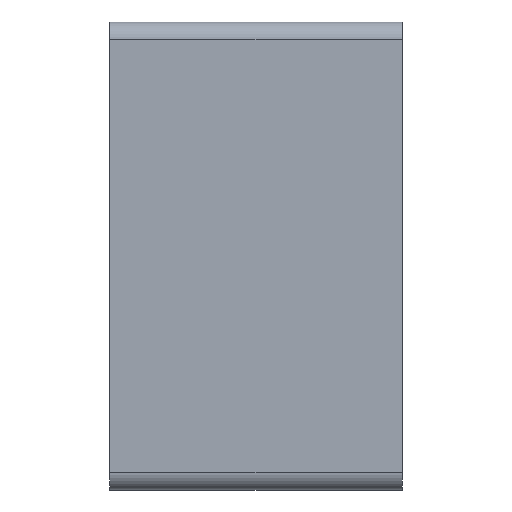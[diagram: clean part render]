
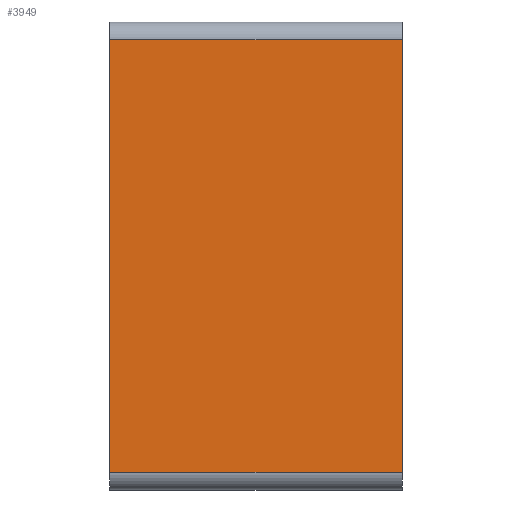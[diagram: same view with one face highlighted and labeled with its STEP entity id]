
A CAD part, front view. The second image highlights one B-rep face of the part: STEP entity #3949.
In plain terms, the highlighted planar face has unit normal (0, -1, 0).
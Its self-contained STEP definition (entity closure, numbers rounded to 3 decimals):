
#1739=VERTEX_POINT('',#5030);
#1771=VERTEX_POINT('',#5062);
#2233=VERTEX_POINT('',#5577);
#2567=EDGE_CURVE('',#2233,#4219,#5945,.T.);
#3181=EDGE_CURVE('',#4219,#1771,#6622,.T.);
#3483=EDGE_CURVE('',#2233,#1739,#6950,.T.);
#3949=ADVANCED_FACE('',(#7453),#7454,.T.);
#4219=VERTEX_POINT('',#7754);
#4675=EDGE_CURVE('',#1771,#1739,#8240,.T.);
#5030=CARTESIAN_POINT('',(50.0,-40.0,37.0));
#5062=CARTESIAN_POINT('',(50.0,-40.0,-37.0));
#5577=CARTESIAN_POINT('',(0.0,-40.0,37.0));
#5945=LINE('',#9944,#9945);
#6622=LINE('',#10919,#10920);
#6950=LINE('',#11392,#11393);
#7453=FACE_OUTER_BOUND('',#12122,.T.);
#7454=PLANE('',#12123);
#7754=CARTESIAN_POINT('',(0.0,-40.0,-37.0));
#8240=LINE('',#13271,#13272);
#9944=CARTESIAN_POINT('',(0.0,-40.0,37.0));
#9945=VECTOR('',#14811,1.0);
#10919=CARTESIAN_POINT('',(0.0,-40.0,-37.0));
#10920=VECTOR('',#15658,1.0);
#11392=CARTESIAN_POINT('',(0.0,-40.0,37.0));
#11393=VECTOR('',#15951,1.0);
#12122=EDGE_LOOP('',(#16382,#16383,#16384,#16385));
#12123=AXIS2_PLACEMENT_3D('',#16386,#16387,#16388);
#13271=CARTESIAN_POINT('',(50.0,-40.0,37.0));
#13272=VECTOR('',#17087,1.0);
#14811=DIRECTION('',(0.0,0.0,-1.0));
#15658=DIRECTION('',(1.0,0.0,0.0));
#15951=DIRECTION('',(1.0,0.0,0.0));
#16382=ORIENTED_EDGE('',*,*,#4675,.T.);
#16383=ORIENTED_EDGE('',*,*,#3483,.F.);
#16384=ORIENTED_EDGE('',*,*,#2567,.T.);
#16385=ORIENTED_EDGE('',*,*,#3181,.T.);
#16386=CARTESIAN_POINT('',(0.0,-40.0,-37.0));
#16387=DIRECTION('',(0.0,-1.0,0.0));
#16388=DIRECTION('',(0.0,0.0,-1.0));
#17087=DIRECTION('',(-0.0,0.0,1.0));
